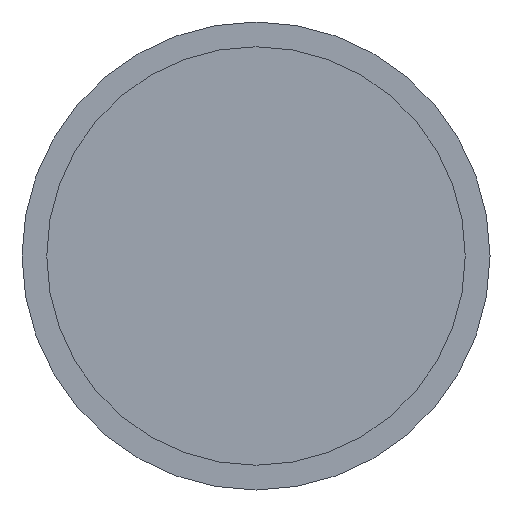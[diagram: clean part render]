
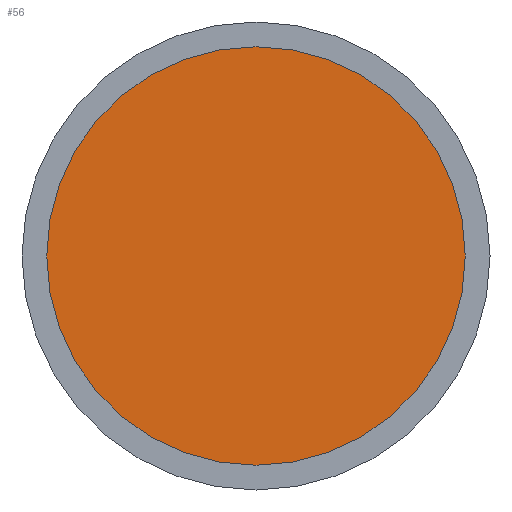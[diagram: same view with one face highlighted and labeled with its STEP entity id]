
A CAD part, front view. The second image highlights one B-rep face of the part: STEP entity #56.
In plain terms, the highlighted planar face has unit normal (0, -1, 0).
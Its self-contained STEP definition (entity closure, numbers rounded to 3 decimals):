
#56=ADVANCED_FACE('',(#93),#95,.T.);
#93=FACE_BOUND('',#94,.T.);
#94=EDGE_LOOP('',(#204));
#95=PLANE('',#96);
#96=AXIS2_PLACEMENT_3D('',#97,#98,#99);
#97=CARTESIAN_POINT('',(0.,-57.,0.));
#98=DIRECTION('',(0.,-1.,0.));
#99=DIRECTION('',(0.,0.,-1.));
#204=ORIENTED_EDGE('',*,*,#229,.T.);
#229=EDGE_CURVE('',#244,#244,#245,.T.);
#244=VERTEX_POINT('',#274);
#245=CIRCLE('',#275,12.52);
#274=CARTESIAN_POINT('',(0.,-57.,12.52));
#275=AXIS2_PLACEMENT_3D('',#276,#277,#278);
#276=CARTESIAN_POINT('',(0.,-57.,0.));
#277=DIRECTION('',(0.,-1.,0.));
#278=DIRECTION('',(0.,0.,1.));
